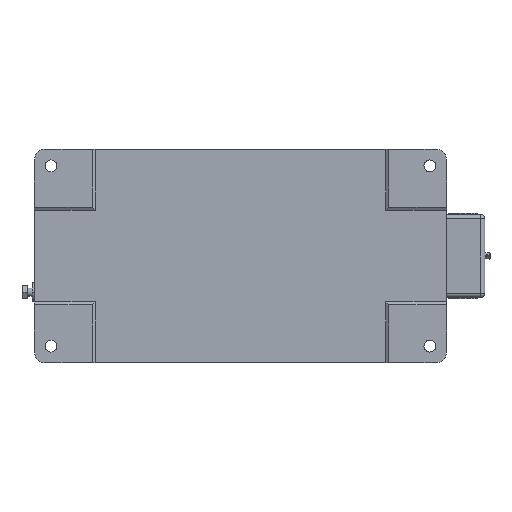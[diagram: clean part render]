
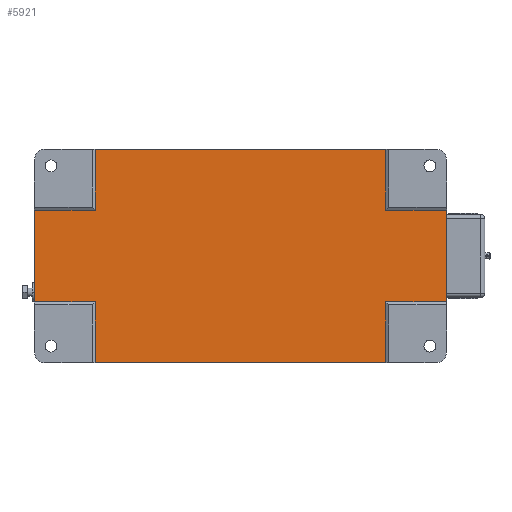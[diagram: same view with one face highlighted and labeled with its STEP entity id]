
A CAD part, front view. The second image highlights one B-rep face of the part: STEP entity #5921.
In plain terms, the highlighted planar face has unit normal (0, -1, 0).
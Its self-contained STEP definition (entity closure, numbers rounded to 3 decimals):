
#203 = CARTESIAN_POINT ( 'NONE',  ( 91.144, 2., 44.144 ) ) ;
#268 = DIRECTION ( 'NONE',  ( -1., 0., 0. ) ) ;
#271 = VECTOR ( 'NONE', #4098, 1000. ) ;
#343 = CARTESIAN_POINT ( 'NONE',  ( -248., 2., -44.144 ) ) ;
#438 = VECTOR ( 'NONE', #1511, 1000. ) ;
#448 = CARTESIAN_POINT ( 'NONE',  ( -248., 2., -44.144 ) ) ;
#560 = VECTOR ( 'NONE', #12528, 1000. ) ;
#973 = ORIENTED_EDGE ( 'NONE', *, *, #13014, .F. ) ;
#1121 = CARTESIAN_POINT ( 'NONE',  ( -189.144, 2., 44.144 ) ) ;
#1154 = PLANE ( 'NONE',  #7028 ) ;
#1187 = EDGE_LOOP ( 'NONE', ( #10172, #4297, #1262, #5975, #9309, #10021, #7682, #973, #7866, #5217, #4317, #10472 ) ) ;
#1262 = ORIENTED_EDGE ( 'NONE', *, *, #5267, .T. ) ;
#1267 = CARTESIAN_POINT ( 'NONE',  ( 91.144, 2., -103. ) ) ;
#1456 = DIRECTION ( 'NONE',  ( 0., 0., 1. ) ) ;
#1511 = DIRECTION ( 'NONE',  ( 0., 0., 1. ) ) ;
#1564 = CARTESIAN_POINT ( 'NONE',  ( 150., 2., 44.144 ) ) ;
#1629 = EDGE_CURVE ( 'NONE', #11905, #3155, #8588, .T. ) ;
#1901 = EDGE_CURVE ( 'NONE', #2048, #11894, #11733, .T. ) ;
#2047 = VERTEX_POINT ( 'NONE', #7320 ) ;
#2048 = VERTEX_POINT ( 'NONE', #7119 ) ;
#2207 = LINE ( 'NONE', #7566, #7949 ) ;
#2454 = CARTESIAN_POINT ( 'NONE',  ( -189.144, 2., -103. ) ) ;
#2545 = EDGE_CURVE ( 'NONE', #9056, #11394, #2207, .T. ) ;
#2774 = VERTEX_POINT ( 'NONE', #11363 ) ;
#2926 = VERTEX_POINT ( 'NONE', #1121 ) ;
#3155 = VERTEX_POINT ( 'NONE', #3787 ) ;
#3482 = LINE ( 'NONE', #5656, #8800 ) ;
#3630 = LINE ( 'NONE', #10302, #4185 ) ;
#3748 = DIRECTION ( 'NONE',  ( -1., 0., 0. ) ) ;
#3787 = CARTESIAN_POINT ( 'NONE',  ( -248., 2., 44.144 ) ) ;
#4098 = DIRECTION ( 'NONE',  ( -1., 0., 0. ) ) ;
#4185 = VECTOR ( 'NONE', #9158, 1000. ) ;
#4297 = ORIENTED_EDGE ( 'NONE', *, *, #8885, .T. ) ;
#4317 = ORIENTED_EDGE ( 'NONE', *, *, #1901, .T. ) ;
#4428 = LINE ( 'NONE', #2454, #11648 ) ;
#4442 = VECTOR ( 'NONE', #1456, 1000. ) ;
#4539 = DIRECTION ( 'NONE',  ( 1., 0., 0. ) ) ;
#5129 = VECTOR ( 'NONE', #9514, 1000. ) ;
#5217 = ORIENTED_EDGE ( 'NONE', *, *, #6299, .T. ) ;
#5267 = EDGE_CURVE ( 'NONE', #2047, #5556, #5870, .T. ) ;
#5268 = CARTESIAN_POINT ( 'NONE',  ( -248., 2., 44.144 ) ) ;
#5414 = FACE_OUTER_BOUND ( 'NONE', #1187, .T. ) ;
#5556 = VERTEX_POINT ( 'NONE', #11474 ) ;
#5580 = CARTESIAN_POINT ( 'NONE',  ( 91.144, 2., -103. ) ) ;
#5656 = CARTESIAN_POINT ( 'NONE',  ( -248., 2., 44.144 ) ) ;
#5870 = LINE ( 'NONE', #7286, #13080 ) ;
#5921 = ADVANCED_FACE ( 'NONE', ( #5414 ), #1154, .F. ) ;
#5975 = ORIENTED_EDGE ( 'NONE', *, *, #10106, .F. ) ;
#6221 = LINE ( 'NONE', #1267, #271 ) ;
#6299 = EDGE_CURVE ( 'NONE', #2774, #2048, #10742, .T. ) ;
#6575 = VERTEX_POINT ( 'NONE', #12570 ) ;
#7028 = AXIS2_PLACEMENT_3D ( 'NONE', #11392, #7522, #268 ) ;
#7119 = CARTESIAN_POINT ( 'NONE',  ( 91.144, 2., -44.144 ) ) ;
#7286 = CARTESIAN_POINT ( 'NONE',  ( 91.144, 2., 103. ) ) ;
#7320 = CARTESIAN_POINT ( 'NONE',  ( 91.144, 2., 103. ) ) ;
#7374 = EDGE_CURVE ( 'NONE', #11894, #11394, #11954, .T. ) ;
#7513 = CARTESIAN_POINT ( 'NONE',  ( -189.144, 2., -103. ) ) ;
#7522 = DIRECTION ( 'NONE',  ( 0., 1., 0. ) ) ;
#7566 = CARTESIAN_POINT ( 'NONE',  ( -248., 2., 44.144 ) ) ;
#7682 = ORIENTED_EDGE ( 'NONE', *, *, #11651, .T. ) ;
#7716 = LINE ( 'NONE', #9897, #9565 ) ;
#7866 = ORIENTED_EDGE ( 'NONE', *, *, #12062, .F. ) ;
#7949 = VECTOR ( 'NONE', #11444, 1000. ) ;
#8405 = VERTEX_POINT ( 'NONE', #7513 ) ;
#8588 = LINE ( 'NONE', #5268, #560 ) ;
#8800 = VECTOR ( 'NONE', #11778, 1000. ) ;
#8885 = EDGE_CURVE ( 'NONE', #9056, #2047, #11042, .T. ) ;
#9020 = CARTESIAN_POINT ( 'NONE',  ( 91.144, 2., -103. ) ) ;
#9056 = VERTEX_POINT ( 'NONE', #203 ) ;
#9158 = DIRECTION ( 'NONE',  ( 0., 0., 1. ) ) ;
#9214 = EDGE_CURVE ( 'NONE', #3155, #2926, #3482, .T. ) ;
#9309 = ORIENTED_EDGE ( 'NONE', *, *, #9214, .F. ) ;
#9514 = DIRECTION ( 'NONE',  ( 1., 0., 0. ) ) ;
#9565 = VECTOR ( 'NONE', #4539, 1000. ) ;
#9897 = CARTESIAN_POINT ( 'NONE',  ( -248., 2., -44.144 ) ) ;
#10021 = ORIENTED_EDGE ( 'NONE', *, *, #1629, .F. ) ;
#10106 = EDGE_CURVE ( 'NONE', #2926, #5556, #4428, .T. ) ;
#10172 = ORIENTED_EDGE ( 'NONE', *, *, #2545, .F. ) ;
#10302 = CARTESIAN_POINT ( 'NONE',  ( -189.144, 2., -103. ) ) ;
#10472 = ORIENTED_EDGE ( 'NONE', *, *, #7374, .T. ) ;
#10742 = LINE ( 'NONE', #5580, #4442 ) ;
#11042 = LINE ( 'NONE', #9020, #12768 ) ;
#11363 = CARTESIAN_POINT ( 'NONE',  ( 91.144, 2., -103. ) ) ;
#11392 = CARTESIAN_POINT ( 'NONE',  ( -248., 2., 44.144 ) ) ;
#11394 = VERTEX_POINT ( 'NONE', #1564 ) ;
#11444 = DIRECTION ( 'NONE',  ( 1., 0., 0. ) ) ;
#11474 = CARTESIAN_POINT ( 'NONE',  ( -189.144, 2., 103. ) ) ;
#11648 = VECTOR ( 'NONE', #12713, 1000. ) ;
#11651 = EDGE_CURVE ( 'NONE', #11905, #6575, #7716, .T. ) ;
#11733 = LINE ( 'NONE', #343, #5129 ) ;
#11778 = DIRECTION ( 'NONE',  ( 1., 0., 0. ) ) ;
#11892 = CARTESIAN_POINT ( 'NONE',  ( 150., 2., 44.144 ) ) ;
#11894 = VERTEX_POINT ( 'NONE', #11974 ) ;
#11905 = VERTEX_POINT ( 'NONE', #448 ) ;
#11954 = LINE ( 'NONE', #11892, #438 ) ;
#11974 = CARTESIAN_POINT ( 'NONE',  ( 150., 2., -44.144 ) ) ;
#12062 = EDGE_CURVE ( 'NONE', #2774, #8405, #6221, .T. ) ;
#12067 = DIRECTION ( 'NONE',  ( 0., 0., 1. ) ) ;
#12528 = DIRECTION ( 'NONE',  ( 0., 0., 1. ) ) ;
#12570 = CARTESIAN_POINT ( 'NONE',  ( -189.144, 2., -44.144 ) ) ;
#12713 = DIRECTION ( 'NONE',  ( 0., 0., 1. ) ) ;
#12768 = VECTOR ( 'NONE', #12067, 1000. ) ;
#13014 = EDGE_CURVE ( 'NONE', #8405, #6575, #3630, .T. ) ;
#13080 = VECTOR ( 'NONE', #3748, 1000. ) ;
